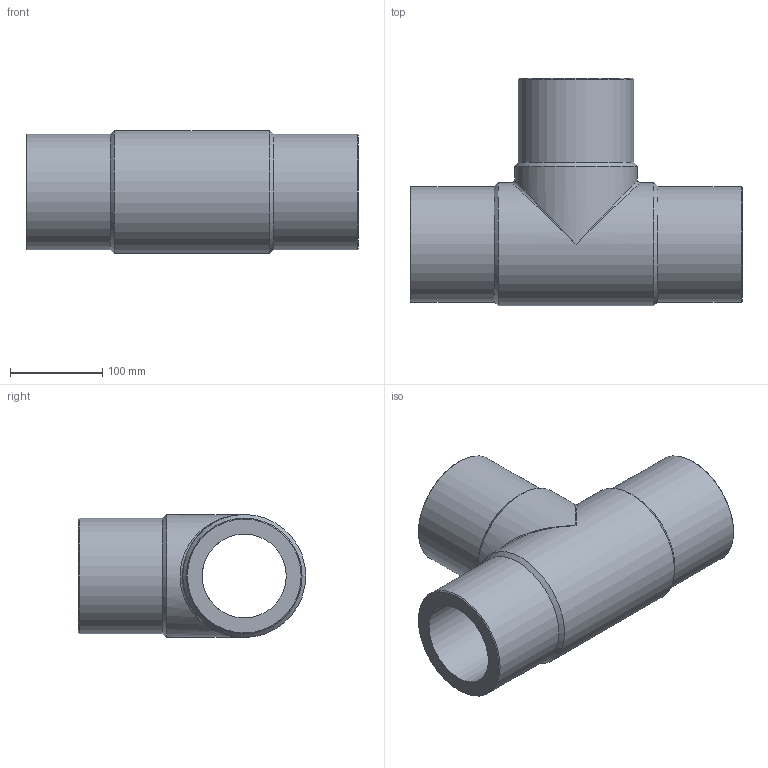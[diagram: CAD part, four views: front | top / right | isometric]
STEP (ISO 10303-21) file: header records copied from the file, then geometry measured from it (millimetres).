
FILE_DESCRIPTION(/* description */ ('Unknown'),/* implementation_level */ '2;1');
FILE_NAME(/* name */ 'TP125H',/* time_stamp */ '2021-08-12T16:40:18+02:00',/* author */ ('Unknown'),/* organization */ ('Unknown'),/* preprocessor_version */ 'ST-DEVELOPER v16.7',/* originating_system */ 'Solid Edge',/* authorisation */ 'Unknown');
FILE_SCHEMA (('AUTOMOTIVE_DESIGN {1 0 10303 214 3 1 1}'));
Length unit declared in the file: millimetre
Products named in the file (1): TP125H
Bounding box: 359 x 246 x 133 mm (x, y, z)
Volume: 3005842.4 mm3; surface area: 338049.9 mm2
Topology: 1 solids, 1 shells, 18 faces, 44 edges, 23 vertices
Faces by surface type: cylinder 7, cone 6, plane 3, bspline 2
Full cylindrical faces by diameter (mm): 90.8 x2, 125 x3, 133 x2
Entity records: 504 total; most frequent: CARTESIAN_POINT 147, DIRECTION 76, ORIENTED_EDGE 42, AXIS2_PLACEMENT_3D 38, EDGE_LOOP 36, FACE_BOUND 36, EDGE_CURVE 21, VERTEX_POINT 19
